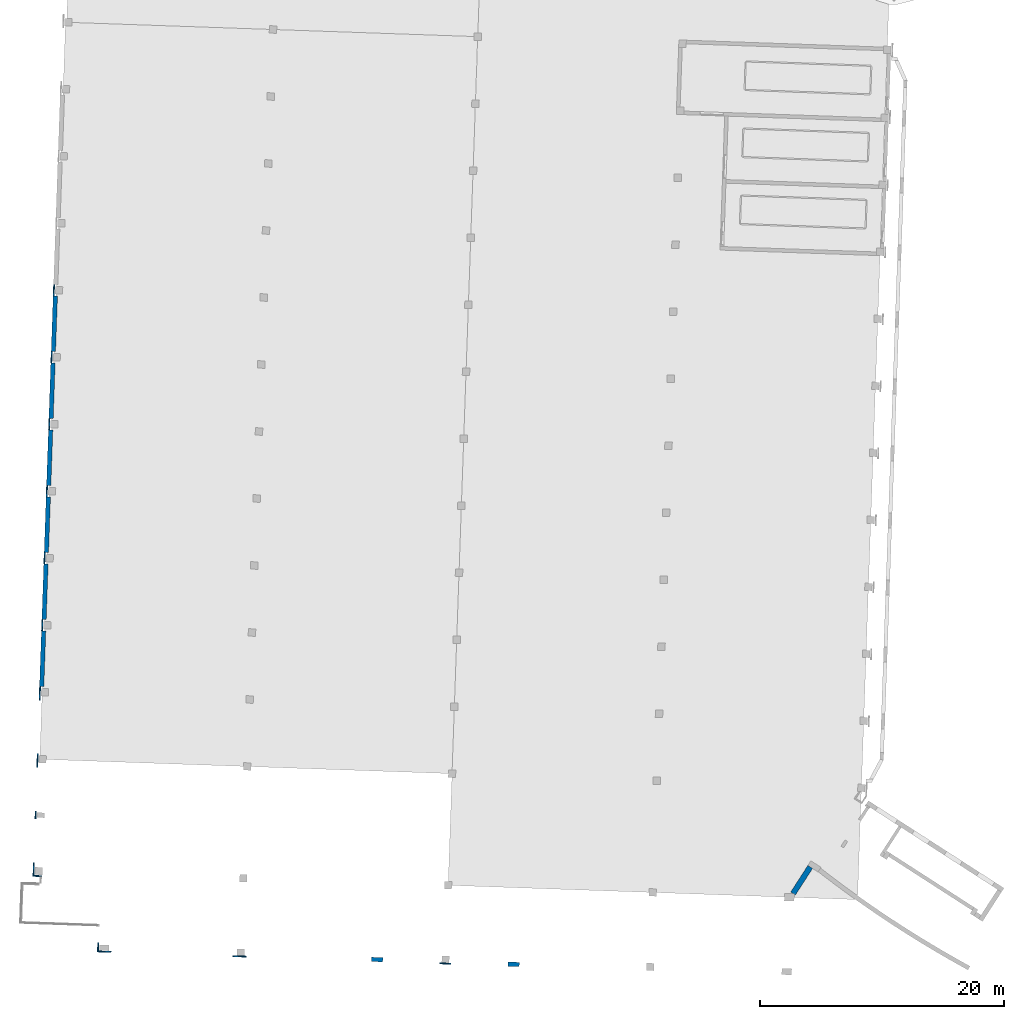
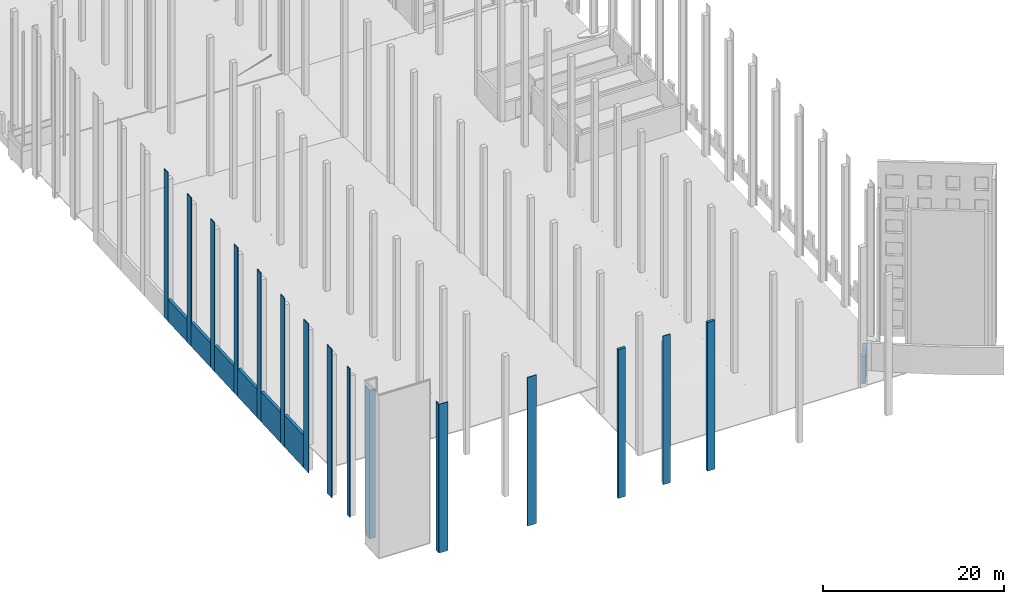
# One storey, part 25 of 44: 24 walls.
"""IFC2X3 building model written with IfcOpenShell, lengths in feet."""

from ifc_helpers import new_model, entity, si_unit, converted_unit, derived_unit, direction, frame, frame_2d, origin, place, context, subcontext, project, spatial, rectangle, extrude, material, layer, layer_set, layer_usage, type_object, element, save


model = new_model("IFC2X3")

# Units and contexts
model_context = context("Model", 3, precision=0.0001, world=origin(), true_north=direction((0.999390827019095, 0.0348994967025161)))
body_context = subcontext(model_context, "Body", "Model", "MODEL_VIEW")
ifc_project = project(units=[converted_unit("LENGTHUNIT", "FOOT", entity("IfcRatioMeasure", 0.3048), si_unit("LENGTHUNIT", "METRE"), dimensions=[1, 0, 0, 0, 0, 0, 0]), converted_unit("AREAUNIT", "SQUARE FOOT", entity("IfcRatioMeasure", 0.09290304), si_unit("AREAUNIT", "SQUARE_METRE"), dimensions=[2, 0, 0, 0, 0, 0, 0]), converted_unit("VOLUMEUNIT", "CUBIC FOOT", entity("IfcRatioMeasure", 0.028316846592), si_unit("VOLUMEUNIT", "CUBIC_METRE"), dimensions=[3, 0, 0, 0, 0, 0, 0]), converted_unit("PLANEANGLEUNIT", "DEGREE", entity("IfcRatioMeasure", 0.0174532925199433), si_unit("PLANEANGLEUNIT", "RADIAN"), dimensions=[0, 0, 0, 0, 0, 0, 0]), si_unit("MASSUNIT", "GRAM", prefix="KILO"), si_unit("TIMEUNIT", "SECOND"), si_unit("FREQUENCYUNIT", "HERTZ"), si_unit("THERMODYNAMICTEMPERATUREUNIT", "DEGREE_CELSIUS"), derived_unit("THERMALTRANSMITTANCEUNIT", [(si_unit("MASSUNIT", "GRAM", prefix="KILO"), 1), (si_unit("THERMODYNAMICTEMPERATUREUNIT", "KELVIN"), -1), (si_unit("TIMEUNIT", "SECOND"), -3)]), derived_unit("VOLUMETRICFLOWRATEUNIT", [(si_unit("LENGTHUNIT", "METRE"), 3), (si_unit("TIMEUNIT", "SECOND"), -1)]), si_unit("ELECTRICCURRENTUNIT", "AMPERE"), si_unit("ELECTRICVOLTAGEUNIT", "VOLT"), si_unit("POWERUNIT", "WATT"), si_unit("FORCEUNIT", "NEWTON"), si_unit("ILLUMINANCEUNIT", "LUX"), si_unit("LUMINOUSFLUXUNIT", "LUMEN"), si_unit("LUMINOUSINTENSITYUNIT", "CANDELA"), derived_unit("USERDEFINED", [(si_unit("MASSUNIT", "GRAM", prefix="KILO"), -1), (si_unit("LENGTHUNIT", "METRE"), -2), (si_unit("TIMEUNIT", "SECOND"), 3), (si_unit("LUMINOUSFLUXUNIT", "LUMEN"), 1)]), derived_unit("LINEARVELOCITYUNIT", [(si_unit("LENGTHUNIT", "METRE"), 1), (si_unit("TIMEUNIT", "SECOND"), -1)]), si_unit("PRESSUREUNIT", "PASCAL"), derived_unit("USERDEFINED", [(si_unit("LENGTHUNIT", "METRE"), -2), (si_unit("MASSUNIT", "GRAM", prefix="KILO"), 1), (si_unit("TIMEUNIT", "SECOND"), -2)])], contexts=[model_context])

# Site, building, storey
site_placement = place(None, frame((892.518771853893, 322.38689265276, 0.00393700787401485), z_axis=(0.0, 0.0, 1.0), x_axis=(0.0348994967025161, 0.999390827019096, 0.0)))
site = spatial("IfcSite", under=ifc_project, at=site_placement, Name="Default", CompositionType="ELEMENT")
building_placement = place(site_placement, origin())
building = spatial("IfcBuilding", under=site, at=building_placement, CompositionType="ELEMENT")
storey_placement = place(building_placement, frame((0.0, 0.0, 544.75)))
storey = spatial("IfcBuildingStorey", under=building, at=storey_placement, Name="Exist Garage - Ground Level", CompositionType="ELEMENT", Elevation=544.75)

# Walls
ifc_material_1 = material(Name="Masonry - Brick")
ifc_layer_1 = layer(ifc_material_1, 0.302083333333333)
ifc_layer_set_1 = layer_set([ifc_layer_1], Name="Basic Wall:(Existing) Exterior - Brick Veneer 3 5/8\"")
ifc_layer_usage_1 = layer_usage(ifc_layer_set_1, "AXIS2", "NEGATIVE", 0.151041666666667)
wall_type_1 = type_object("IfcWallType", Name="Basic Wall:(Existing) Exterior - Brick Veneer 3 5/8\"", PredefinedType="STANDARD", material=ifc_layer_set_1)
wall_1_placement = place(storey_placement, frame((-191.088370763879, 345.263953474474, 0.0), z_axis=(0.0, 0.0, 1.0), x_axis=(0.0, 1.0, 0.0)))
element("IfcWallStandardCase", 1, at=wall_1_placement, inside=storey, type_object=wall_type_1, material=ifc_layer_usage_1, Name="Basic Wall:(Existing) Exterior - Brick Veneer 3 5/8\"", ObjectType="Basic Wall:(Existing) Exterior - Brick Veneer 3 5/8\"", context=body_context, shape_type="SweptSolid", body=[
    extrude(rectangle(XDim=2.99999999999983, YDim=0.302083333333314, at=frame_2d((1.49999999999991, 0.0), x_axis=(-1.0, 0.0))), origin(), (0.0, 0.0, 1.0), 65.8125),
])
ifc_layer_usage_2 = layer_usage(ifc_layer_set_1, "AXIS2", "NEGATIVE", 0.151041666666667)
wall_2_placement = place(storey_placement, frame((-191.08837076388, 400.263953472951, 0.0), z_axis=(0.0, 0.0, 1.0), x_axis=(0.0, 1.0, 0.0)))
element("IfcWallStandardCase", 2, at=wall_2_placement, inside=storey, type_object=wall_type_1, material=ifc_layer_usage_2, Name="Basic Wall:(Existing) Exterior - Brick Veneer 3 5/8\"", ObjectType="Basic Wall:(Existing) Exterior - Brick Veneer 3 5/8\"", context=body_context, shape_type="SweptSolid", body=[
    extrude(rectangle(XDim=3.66666666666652, YDim=0.302083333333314, at=frame_2d((1.83333333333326, 0.0), x_axis=(-1.0, 0.0))), origin(), (0.0, 0.0, 1.0), 65.8125),
])
ifc_layer_usage_3 = layer_usage(ifc_layer_set_1, "AXIS2", "NEGATIVE", 0.151041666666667)
wall_3_placement = place(storey_placement, frame((-191.08837076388, 436.597423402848, 0.0), z_axis=(0.0, 0.0, 1.0), x_axis=(0.0, 1.0, 0.0)))
element("IfcWallStandardCase", 3, at=wall_3_placement, inside=storey, type_object=wall_type_1, material=ifc_layer_usage_3, Name="Basic Wall:(Existing) Exterior - Brick Veneer 3 5/8\"", ObjectType="Basic Wall:(Existing) Exterior - Brick Veneer 3 5/8\"", context=body_context, shape_type="SweptSolid", body=[
    extrude(rectangle(XDim=3.66666666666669, YDim=0.302083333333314, at=frame_2d((1.83333333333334, 0.0), x_axis=(-1.0, 0.0))), origin(), (0.0, 0.0, 1.0), 65.8125),
])
ifc_layer_usage_4 = layer_usage(ifc_layer_set_1, "AXIS2", "NEGATIVE", 0.151041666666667)
wall_4_placement = place(storey_placement, frame((-190.937329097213, 440.113048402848, 0.0)))
element("IfcWallStandardCase", 4, at=wall_4_placement, inside=storey, type_object=wall_type_1, material=ifc_layer_usage_4, Name="Basic Wall:(Existing) Exterior - Brick Veneer 3 5/8\"", ObjectType="Basic Wall:(Existing) Exterior - Brick Veneer 3 5/8\"", context=body_context, shape_type="SweptSolid", body=[
    extrude(rectangle(XDim=2.18229166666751, YDim=0.302083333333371, at=frame_2d((1.09114583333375, 0.0), x_axis=(-1.0, 0.0))), origin(), (0.0, 0.0, 1.0), 65.8125),
])
ifc_layer_usage_5 = layer_usage(ifc_layer_set_1, "AXIS2", "NEGATIVE", 0.151041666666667)
wall_5_placement = place(storey_placement, frame((-171.421704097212, 455.930620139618, 0.0), z_axis=(0.0, 0.0, 1.0), x_axis=(0.0, 1.0, 0.0)))
element("IfcWallStandardCase", 5, at=wall_5_placement, inside=storey, type_object=wall_type_1, material=ifc_layer_usage_5, Name="Basic Wall:(Existing) Exterior - Brick Veneer 3 5/8\"", ObjectType="Basic Wall:(Existing) Exterior - Brick Veneer 3 5/8\"", context=body_context, shape_type="SweptSolid", body=[
    extrude(rectangle(XDim=2.33333333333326, YDim=0.302083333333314, at=frame_2d((1.16666666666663, 0.0), x_axis=(-1.0, 0.0))), origin(), (0.0, 0.0, 1.0), 65.8125),
])
ifc_layer_usage_6 = layer_usage(ifc_layer_set_1, "AXIS2", "NEGATIVE", 0.151041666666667)
wall_6_placement = place(storey_placement, frame((-171.270662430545, 458.112911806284, 0.0)))
element("IfcWallStandardCase", 6, at=wall_6_placement, inside=storey, type_object=wall_type_1, material=ifc_layer_usage_6, Name="Basic Wall:(Existing) Exterior - Brick Veneer 3 5/8\"", ObjectType="Basic Wall:(Existing) Exterior - Brick Veneer 3 5/8\"", context=body_context, shape_type="SweptSolid", body=[
    extrude(rectangle(XDim=3.36458333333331, YDim=0.302083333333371, at=frame_2d((1.68229166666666, 0.0), x_axis=(-1.0, 0.0))), origin(), (0.0, 0.0, 1.0), 65.8125),
])
ifc_layer_usage_7 = layer_usage(ifc_layer_set_1, "AXIS2", "NEGATIVE", 0.151041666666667)
wall_7_placement = place(storey_placement, frame((-156.072745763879, 458.112911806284, 0.0)))
element("IfcWallStandardCase", 7, at=wall_7_placement, inside=storey, type_object=wall_type_1, material=ifc_layer_usage_7, Name="Basic Wall:(Existing) Exterior - Brick Veneer 3 5/8\"", ObjectType="Basic Wall:(Existing) Exterior - Brick Veneer 3 5/8\"", context=body_context, shape_type="SweptSolid", body=[
    extrude(rectangle(XDim=1.99999999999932, YDim=0.302083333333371, at=frame_2d((0.999999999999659, 0.0), x_axis=(-1.0, 0.0))), origin(), (0.0, 0.0, 1.0), 65.8125),
])
ifc_layer_usage_8 = layer_usage(ifc_layer_set_1, "AXIS2", "POSITIVE", -0.151041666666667)
wall_8_placement = place(storey_placement, frame((-138.572745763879, 458.112911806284, 0.0), z_axis=(0.0, 0.0, 1.0), x_axis=(-1.0, 0.0, 0.0)))
element("IfcWallStandardCase", 8, at=wall_8_placement, inside=storey, type_object=wall_type_1, material=ifc_layer_usage_8, Name="Basic Wall:(Existing) Exterior - Brick Veneer 3 5/8\"", ObjectType="Basic Wall:(Existing) Exterior - Brick Veneer 3 5/8\"", context=body_context, shape_type="SweptSolid", body=[
    extrude(rectangle(XDim=3.66666666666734, YDim=0.302083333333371, at=frame_2d((1.83333333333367, 0.0), x_axis=(-1.0, 0.0))), origin(), (0.0, 0.0, 1.0), 65.8125),
])
ifc_layer_usage_9 = layer_usage(ifc_layer_set_1, "AXIS2", "POSITIVE", -0.151041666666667)
wall_9_placement = place(storey_placement, frame((-120.572745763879, 458.112911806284, 0.0), z_axis=(0.0, 0.0, 1.0), x_axis=(-1.0, 0.0, 0.0)))
element("IfcWallStandardCase", 9, at=wall_9_placement, inside=storey, type_object=wall_type_1, material=ifc_layer_usage_9, Name="Basic Wall:(Existing) Exterior - Brick Veneer 3 5/8\"", ObjectType="Basic Wall:(Existing) Exterior - Brick Veneer 3 5/8\"", context=body_context, shape_type="SweptSolid", body=[
    extrude(rectangle(XDim=3.66666666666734, YDim=0.302083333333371, at=frame_2d((1.83333333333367, 0.0), x_axis=(-1.0, 0.0))), origin(), (0.0, 0.0, 1.0), 65.8125),
])
ifc_layer_usage_10 = layer_usage(ifc_layer_set_1, "AXIS2", "POSITIVE", -0.151041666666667)
wall_10_placement = place(storey_placement, frame((-102.572745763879, 458.112911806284, 0.0), z_axis=(0.0, 0.0, 1.0), x_axis=(-1.0, 0.0, 0.0)))
element("IfcWallStandardCase", 10, at=wall_10_placement, inside=storey, type_object=wall_type_1, material=ifc_layer_usage_10, Name="Basic Wall:(Existing) Exterior - Brick Veneer 3 5/8\"", ObjectType="Basic Wall:(Existing) Exterior - Brick Veneer 3 5/8\"", context=body_context, shape_type="SweptSolid", body=[
    extrude(rectangle(XDim=3.0, YDim=0.302083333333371, at=frame_2d((1.5, 0.0), x_axis=(-1.0, 0.0))), origin(), (0.0, 0.0, 1.0), 65.8125),
])
ifc_layer_usage_11 = layer_usage(ifc_layer_set_1, "AXIS2", "NEGATIVE", 0.151041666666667)
wall_11_placement = place(storey_placement, frame((-15.5727457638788, 458.112911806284, 0.0)))
element("IfcWallStandardCase", 11, at=wall_11_placement, inside=storey, type_object=wall_type_1, material=ifc_layer_usage_11, Name="Basic Wall:(Existing) Exterior - Brick Veneer 3 5/8\"", ObjectType="Basic Wall:(Existing) Exterior - Brick Veneer 3 5/8\"", context=body_context, shape_type="SweptSolid", body=[
    extrude(rectangle(XDim=3.00000000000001, YDim=0.302083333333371, at=frame_2d((1.5, 0.0), x_axis=(-1.0, 0.0))), origin(), (0.0, 0.0, 1.0), 65.8125),
])
ifc_layer_usage_12 = layer_usage(ifc_layer_set_1, "AXIS2", "NEGATIVE", 0.151041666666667)
wall_12_placement = place(storey_placement, frame((-33.5727457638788, 458.112911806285, 0.0)))
element("IfcWallStandardCase", 12, at=wall_12_placement, inside=storey, type_object=wall_type_1, material=ifc_layer_usage_12, Name="Basic Wall:(Existing) Exterior - Brick Veneer 3 5/8\"", ObjectType="Basic Wall:(Existing) Exterior - Brick Veneer 3 5/8\"", context=body_context, shape_type="SweptSolid", body=[
    extrude(rectangle(XDim=3.00000000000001, YDim=0.302083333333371, at=frame_2d((1.5, 0.0), x_axis=(-1.0, 0.0))), origin(), (0.0, 0.0, 1.0), 65.8125),
])
ifc_layer_usage_13 = layer_usage(ifc_layer_set_1, "AXIS2", "NEGATIVE", 0.151041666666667)
wall_13_placement = place(storey_placement, frame((-51.5727457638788, 458.112911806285, 0.0)))
element("IfcWallStandardCase", 13, at=wall_13_placement, inside=storey, type_object=wall_type_1, material=ifc_layer_usage_13, Name="Basic Wall:(Existing) Exterior - Brick Veneer 3 5/8\"", ObjectType="Basic Wall:(Existing) Exterior - Brick Veneer 3 5/8\"", context=body_context, shape_type="SweptSolid", body=[
    extrude(rectangle(XDim=3.00000000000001, YDim=0.302083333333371, at=frame_2d((1.5, 0.0), x_axis=(-1.0, 0.0))), origin(), (0.0, 0.0, 1.0), 65.8125),
])
ifc_layer_usage_14 = layer_usage(ifc_layer_set_1, "AXIS2", "NEGATIVE", 0.151041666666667)
wall_14_placement = place(storey_placement, frame((-69.5727457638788, 458.112911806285, 0.0)))
element("IfcWallStandardCase", 14, at=wall_14_placement, inside=storey, type_object=wall_type_1, material=ifc_layer_usage_14, Name="Basic Wall:(Existing) Exterior - Brick Veneer 3 5/8\"", ObjectType="Basic Wall:(Existing) Exterior - Brick Veneer 3 5/8\"", context=body_context, shape_type="SweptSolid", body=[
    extrude(rectangle(XDim=3.00000000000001, YDim=0.302083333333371, at=frame_2d((1.50000000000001, 0.0), x_axis=(-1.0, 0.0))), origin(), (0.0, 0.0, 1.0), 65.8125),
])
ifc_layer_usage_15 = layer_usage(ifc_layer_set_1, "AXIS2", "NEGATIVE", 0.151041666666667)
wall_15_placement = place(storey_placement, frame((-87.5727457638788, 458.112911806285, 0.0)))
element("IfcWallStandardCase", 15, at=wall_15_placement, inside=storey, type_object=wall_type_1, material=ifc_layer_usage_15, Name="Basic Wall:(Existing) Exterior - Brick Veneer 3 5/8\"", ObjectType="Basic Wall:(Existing) Exterior - Brick Veneer 3 5/8\"", context=body_context, shape_type="SweptSolid", body=[
    extrude(rectangle(XDim=3.00000000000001, YDim=0.302083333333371, at=frame_2d((1.50000000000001, 0.0), x_axis=(-1.0, 0.0))), origin(), (0.0, 0.0, 1.0), 65.8125),
])
ifc_layer_2 = layer(ifc_material_1, 0.302083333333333)
ifc_material_2 = material(Name="Misc. Air Layers - Air Space")
ifc_layer_3 = layer(ifc_material_2, 0.197916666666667)
ifc_material_3 = material(Name="Concrete - Cast-in-Place Concrete_hatch surface")
ifc_layer_4 = layer(ifc_material_3, 0.666666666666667)
ifc_layer_set_2 = layer_set([ifc_layer_2, ifc_layer_3, ifc_layer_4], Name="Basic Wall:(existing)Exterior - Brick on Conc - 1'-2\"(2\" air space)")
ifc_layer_usage_16 = layer_usage(ifc_layer_set_2, "AXIS2", "POSITIVE", -0.583333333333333)
wall_type_2 = type_object("IfcWallType", Name="Basic Wall:(existing)Exterior - Brick on Conc - 1'-2\"(2\" air space)", PredefinedType="STANDARD", material=ifc_layer_set_2)
wall_16_placement = place(storey_placement, frame((-105.572745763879, 457.680620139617, 0.0), z_axis=(0.0, 0.0, 1.0), x_axis=(-1.0, 0.0, 0.0)))
element("IfcWallStandardCase", 16, at=wall_16_placement, inside=storey, type_object=wall_type_2, material=ifc_layer_usage_16, Name="Basic Wall:(existing)Exterior - Brick on Conc - 1'-2\"(2\" air space)", ObjectType="Basic Wall:(existing)Exterior - Brick on Conc - 1'-2\"(2\" air space)", context=body_context, shape_type="SweptSolid", body=[
    extrude(rectangle(XDim=15.0, YDim=1.16666666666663, at=frame_2d((7.49999999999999, -1.43773881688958e-14), x_axis=(-1.0, 0.0))), origin(), (0.0, 0.0, 1.0), 14.25),
])
ifc_layer_usage_17 = layer_usage(ifc_layer_set_2, "AXIS2", "POSITIVE", -0.583333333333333)
wall_17_placement = place(storey_placement, frame((-87.5727457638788, 457.680620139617, 0.0), z_axis=(0.0, 0.0, 1.0), x_axis=(-1.0, 0.0, 0.0)))
element("IfcWallStandardCase", 17, at=wall_17_placement, inside=storey, type_object=wall_type_2, material=ifc_layer_usage_17, Name="Basic Wall:(existing)Exterior - Brick on Conc - 1'-2\"(2\" air space)", ObjectType="Basic Wall:(existing)Exterior - Brick on Conc - 1'-2\"(2\" air space)", context=body_context, shape_type="SweptSolid", body=[
    extrude(rectangle(XDim=15.0, YDim=1.16666666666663, at=frame_2d((7.49999999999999, -1.43773881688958e-14), x_axis=(-1.0, 0.0))), origin(), (0.0, 0.0, 1.0), 13.3798828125),
])
ifc_layer_usage_18 = layer_usage(ifc_layer_set_2, "AXIS2", "POSITIVE", -0.583333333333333)
wall_18_placement = place(storey_placement, frame((-69.5727457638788, 457.680620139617, 0.0), z_axis=(0.0, 0.0, 1.0), x_axis=(-1.0, 0.0, 0.0)))
element("IfcWallStandardCase", 18, at=wall_18_placement, inside=storey, type_object=wall_type_2, material=ifc_layer_usage_18, Name="Basic Wall:(existing)Exterior - Brick on Conc - 1'-2\"(2\" air space)", ObjectType="Basic Wall:(existing)Exterior - Brick on Conc - 1'-2\"(2\" air space)", context=body_context, shape_type="SweptSolid", body=[
    extrude(rectangle(XDim=15.0, YDim=1.16666666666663, at=frame_2d((7.49999999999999, -1.43773881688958e-14), x_axis=(-1.0, 0.0))), origin(), (0.0, 0.0, 1.0), 12.4899088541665),
])
ifc_layer_usage_19 = layer_usage(ifc_layer_set_2, "AXIS2", "POSITIVE", -0.583333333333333)
wall_19_placement = place(storey_placement, frame((-51.5727457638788, 457.680620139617, 0.0), z_axis=(0.0, 0.0, 1.0), x_axis=(-1.0, 0.0, 0.0)))
element("IfcWallStandardCase", 19, at=wall_19_placement, inside=storey, type_object=wall_type_2, material=ifc_layer_usage_19, Name="Basic Wall:(existing)Exterior - Brick on Conc - 1'-2\"(2\" air space)", ObjectType="Basic Wall:(existing)Exterior - Brick on Conc - 1'-2\"(2\" air space)", context=body_context, shape_type="SweptSolid", body=[
    extrude(rectangle(XDim=15.0, YDim=1.16666666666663, at=frame_2d((7.49999999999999, -1.43773881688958e-14), x_axis=(-1.0, 0.0))), origin(), (0.0, 0.0, 1.0), 11.58984375),
])
ifc_layer_usage_20 = layer_usage(ifc_layer_set_2, "AXIS2", "POSITIVE", -0.583333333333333)
wall_20_placement = place(storey_placement, frame((-33.5727457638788, 457.680620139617, 0.0), z_axis=(0.0, 0.0, 1.0), x_axis=(-1.0, 0.0, 0.0)))
element("IfcWallStandardCase", 20, at=wall_20_placement, inside=storey, type_object=wall_type_2, material=ifc_layer_usage_20, Name="Basic Wall:(existing)Exterior - Brick on Conc - 1'-2\"(2\" air space)", ObjectType="Basic Wall:(existing)Exterior - Brick on Conc - 1'-2\"(2\" air space)", context=body_context, shape_type="SweptSolid", body=[
    extrude(rectangle(XDim=15.0, YDim=1.16666666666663, at=frame_2d((7.49999999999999, -1.43773881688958e-14), x_axis=(-1.0, 0.0))), origin(), (0.0, 0.0, 1.0), 10.6998697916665),
])
ifc_layer_usage_21 = layer_usage(ifc_layer_set_2, "AXIS2", "POSITIVE", -0.583333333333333)
wall_21_placement = place(storey_placement, frame((-15.5727457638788, 457.680620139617, 0.0), z_axis=(0.0, 0.0, 1.0), x_axis=(-1.0, 0.0, 0.0)))
element("IfcWallStandardCase", 21, at=wall_21_placement, inside=storey, type_object=wall_type_2, material=ifc_layer_usage_21, Name="Basic Wall:(existing)Exterior - Brick on Conc - 1'-2\"(2\" air space)", ObjectType="Basic Wall:(existing)Exterior - Brick on Conc - 1'-2\"(2\" air space)", context=body_context, shape_type="SweptSolid", body=[
    extrude(rectangle(XDim=15.0, YDim=1.16666666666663, at=frame_2d((7.49999999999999, -1.43773881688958e-14), x_axis=(-1.0, 0.0))), origin(), (0.0, 0.0, 1.0), 9.80989583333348),
])
ifc_layer_5 = layer(ifc_material_1, 0.302083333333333)
ifc_layer_6 = layer(ifc_material_2, 0.03125)
ifc_layer_7 = layer(ifc_material_3, 1.16666666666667)
ifc_layer_set_3 = layer_set([ifc_layer_5, ifc_layer_6, ifc_layer_7], Name="Basic Wall:(existing)Exterior - Brick on Conc - 1'-6\"")
ifc_layer_usage_22 = layer_usage(ifc_layer_set_3, "AXIS2", "NEGATIVE", 0.75)
wall_type_3 = type_object("IfcWallType", Name="Basic Wall:(existing)Exterior - Brick on Conc - 1'-6\"", PredefinedType="STANDARD", material=ifc_layer_set_3)
wall_22_placement = place(storey_placement, frame((-169.054333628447, 254.128103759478, 0.0), z_axis=(0.0, 0.0, 1.0), x_axis=(0.858972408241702, -0.512021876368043, 0.0)))
element("IfcWallStandardCase", 22, at=wall_22_placement, inside=storey, type_object=wall_type_3, material=ifc_layer_usage_22, Name="Basic Wall:(existing)Exterior - Brick on Conc - 1'-6\"", ObjectType="Basic Wall:(existing)Exterior - Brick on Conc - 1'-6\"", context=body_context, shape_type="SweptSolid", body=[
    extrude(rectangle(XDim=8.49349651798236, YDim=1.49999999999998, at=frame_2d((4.24674825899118, 7.7715611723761e-16), x_axis=(-1.0, 0.0))), origin(), (0.0, 0.0, 1.0), 12.25),
])
ifc_layer_8 = layer(ifc_material_1, 0.302083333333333)
ifc_material_4 = material(Name="Air Barrier - Air Infiltration Barrier")
ifc_layer_9 = layer(ifc_material_4, 0.229166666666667)
ifc_material_5 = material(Name="Masonry - Concrete Masonry Units")
ifc_layer_10 = layer(ifc_material_5, 0.635416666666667)
ifc_layer_set_4 = layer_set([ifc_layer_8, ifc_layer_9, ifc_layer_10], Name="Basic Wall:(existing) Exterior - Brick on CMU - 1'-2\"")
ifc_layer_usage_23 = layer_usage(ifc_layer_set_4, "AXIS2", "POSITIVE", -0.583333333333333)
wall_type_4 = type_object("IfcWallType", Name="Basic Wall:(existing) Exterior - Brick on CMU - 1'-2\"", PredefinedType="STANDARD", material=ifc_layer_set_4)
wall_23_placement = place(storey_placement, frame((-190.656079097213, 366.597286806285, 0.0), z_axis=(0.0, 0.0, 1.0), x_axis=(0.0, -1.0, 0.0)))
element("IfcWallStandardCase", 23, at=wall_23_placement, inside=storey, type_object=wall_type_4, material=ifc_layer_usage_23, Name="Basic Wall:(existing) Exterior - Brick on CMU - 1'-2\"", ObjectType="Basic Wall:(existing) Exterior - Brick on CMU - 1'-2\"", context=body_context, shape_type="SweptSolid", body=[
    extrude(rectangle(XDim=3.0, YDim=1.16666666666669, at=frame_2d((1.5, 0.0), x_axis=(-1.0, 0.0))), origin(), (0.0, 0.0, 1.0), 65.8125),
])
ifc_layer_usage_24 = layer_usage(ifc_layer_set_4, "AXIS2", "NEGATIVE", 0.583333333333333)
wall_24_placement = place(storey_placement, frame((-190.656079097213, 326.930838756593, 0.0), z_axis=(0.0, 0.0, 1.0), x_axis=(0.0, 1.0, 0.0)))
element("IfcWallStandardCase", 24, at=wall_24_placement, inside=storey, type_object=wall_type_4, material=ifc_layer_usage_24, Name="Basic Wall:(existing) Exterior - Brick on CMU - 1'-2\"", ObjectType="Basic Wall:(existing) Exterior - Brick on CMU - 1'-2\"", context=body_context, shape_type="SweptSolid", body=[
    extrude(rectangle(XDim=3.0, YDim=1.16666666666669, at=frame_2d((1.5, 0.0), x_axis=(-1.0, 0.0))), origin(), (0.0, 0.0, 1.0), 65.8125),
])

save(model, "model.ifc")
